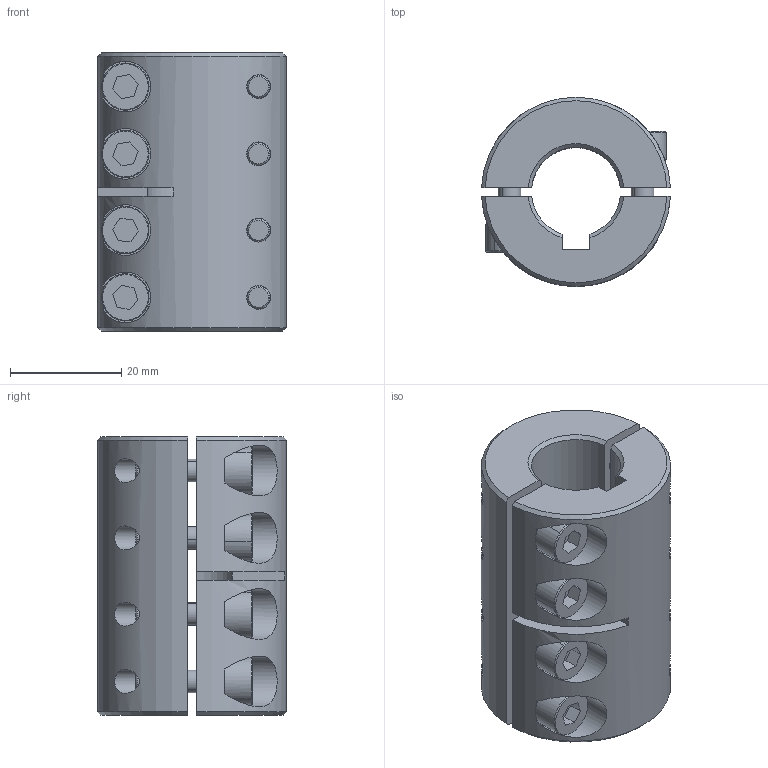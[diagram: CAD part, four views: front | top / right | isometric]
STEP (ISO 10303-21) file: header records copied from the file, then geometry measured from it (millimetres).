
FILE_DESCRIPTION((''),'2;1');
FILE_NAME('MSPC-16-16-X','2016-09-08T',('SYSTEM'),(''),'PRO/ENGINEER BY PARAMETRIC TECHNOLOGY CORPORATION, 2015110','PRO/ENGINEER BY PARAMETRIC TECHNOLOGY CORPORATION, 2015110','');
FILE_SCHEMA(('AUTOMOTIVE_DESIGN { 1 0 10303 214 1 1 1 1 }'));
Length unit declared in the file: inch
Products named in the file (1): MSPC-16-16-X
Bounding box: 33.96 x 34 x 50 mm (x, y, z)
Volume: 31260.7 mm3; surface area: 16780.5 mm2
Topology: 2 solids, 2 shells, 234 faces, 546 edges, 348 vertices
Faces by surface type: plane 115, cylinder 77, cone 42
Entity records: 8935 total; most frequent: CARTESIAN_POINT 1745, DIRECTION 1166, ORIENTED_EDGE 1092, PRESENTATION_STYLE_ASSIGNMENT 548, STYLED_ITEM 548, CURVE_STYLE 546, EDGE_CURVE 546, AXIS2_PLACEMENT_3D 430
